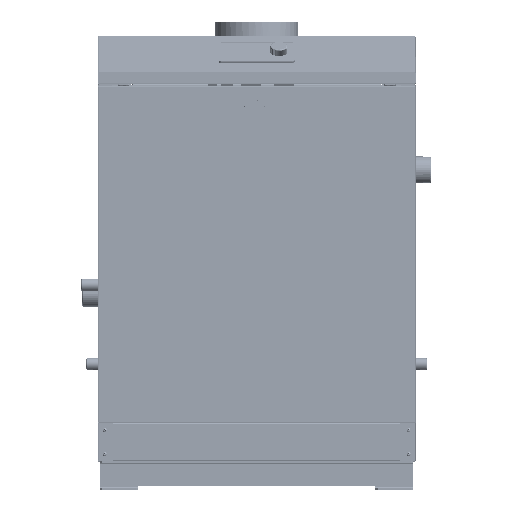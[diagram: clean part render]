
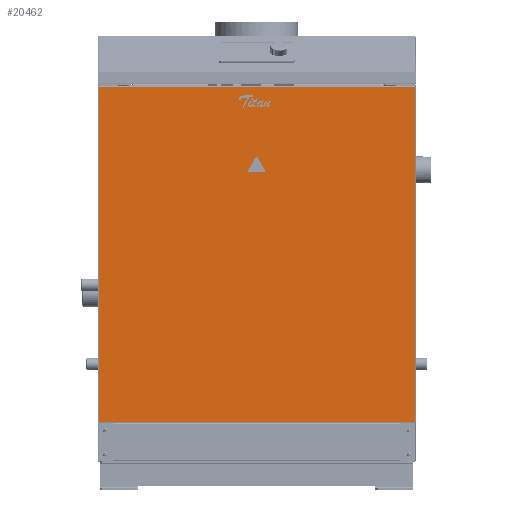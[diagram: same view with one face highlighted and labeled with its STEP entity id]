
A CAD part, top view. The second image highlights one B-rep face of the part: STEP entity #20462.
In plain terms, the highlighted planar face has unit normal (0, 0, 1) as drawn and (0, 1, 0) by its records, which use the part's own axes.
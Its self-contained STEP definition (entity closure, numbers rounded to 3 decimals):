
#20462=ADVANCED_FACE('',(#55864),#55866,.T.);
#55864=FACE_BOUND('',#55865,.T.);
#55865=EDGE_LOOP('',(#82588,#82589,#82590,#82591));
#55866=PLANE('',#55867);
#55867=AXIS2_PLACEMENT_3D('',#55868,#55869,#55870);
#55868=CARTESIAN_POINT('',(-0.,1.,0.));
#55869=DIRECTION('',(0.,1.,0.));
#55870=DIRECTION('',(-1.,0.,0.));
#82588=ORIENTED_EDGE('',*,*,#97265,.T.);
#82589=ORIENTED_EDGE('',*,*,#97286,.T.);
#82590=ORIENTED_EDGE('',*,*,#97289,.T.);
#82591=ORIENTED_EDGE('',*,*,#97295,.T.);
#97265=EDGE_CURVE('',#113698,#113667,#113708,.T.);
#97286=EDGE_CURVE('',#113667,#113664,#113738,.T.);
#97289=EDGE_CURVE('',#113664,#113690,#113742,.T.);
#97295=EDGE_CURVE('',#113690,#113698,#113750,.T.);
#113664=VERTEX_POINT('',#174896);
#113667=VERTEX_POINT('',#174924);
#113690=VERTEX_POINT('',#175021);
#113698=VERTEX_POINT('',#175060);
#113708=LINE('',#175126,#175127);
#113738=LINE('',#175200,#175201);
#113742=LINE('',#175210,#175211);
#113750=LINE('',#175230,#175231);
#174896=CARTESIAN_POINT('',(-333.,1.,353.5));
#174924=CARTESIAN_POINT('',(-333.,1.,-353.5));
#175021=CARTESIAN_POINT('',(333.,1.,353.5));
#175060=CARTESIAN_POINT('',(333.,1.,-353.5));
#175126=CARTESIAN_POINT('',(333.,1.,-353.5));
#175127=VECTOR('',#175128,1.);
#175128=DIRECTION('',(-1.,0.,0.));
#175200=CARTESIAN_POINT('',(-333.,1.,-353.5));
#175201=VECTOR('',#175202,1.);
#175202=DIRECTION('',(0.,0.,1.));
#175210=CARTESIAN_POINT('',(-333.,1.,353.5));
#175211=VECTOR('',#175212,1.);
#175212=DIRECTION('',(1.,0.,0.));
#175230=CARTESIAN_POINT('',(333.,1.,353.5));
#175231=VECTOR('',#175232,1.);
#175232=DIRECTION('',(0.,0.,-1.));
